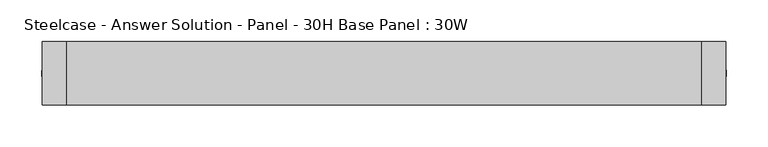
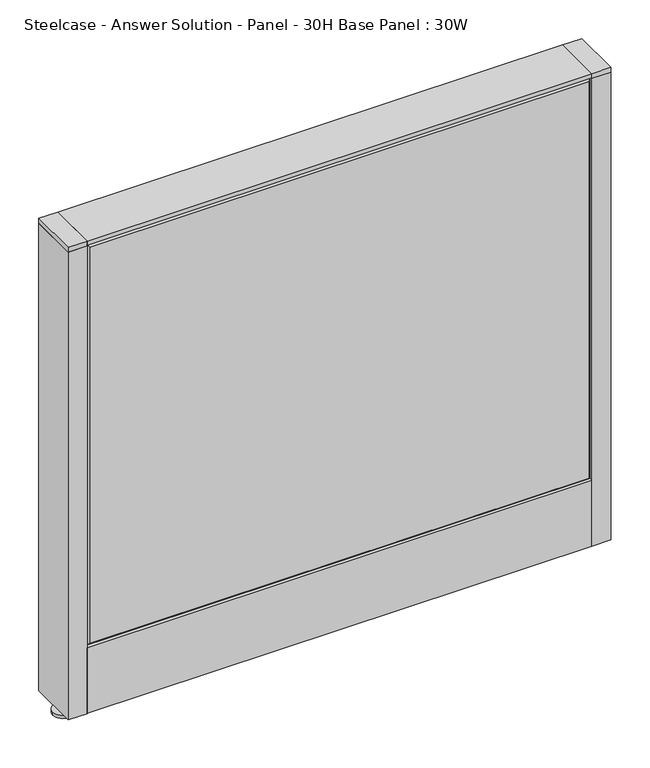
"""IFC4 building model written with IfcOpenShell, lengths in millimetres: furniture geometry, Steelcase - Answer Solution - Panel - 30H Base Panel : 30W."""

import ifcopenshell
import ifcopenshell.guid

model = None  # the IFC model being written
_history = None  # IfcOwnerHistory: only IFC2X3 demands one
_inside = {}  # id of a spatial element -> (the spatial element, [elements in it])
_under = {}  # id of a project, library or spatial element -> (it, [spatial elements below it])
_declared = {}  # id of a project -> (the project, [libraries it declares])
_typed = {}  # id of a type object -> (the type object, [elements of that type])
_made_of = {}  # id of a material, layer set ... -> (it, [elements and type objects made of it])


def new_model(schema):
    """Start an empty IFC model of exactly this schema.

    Asked for "IFC4X3", IfcOpenShell would pick the latest addendum, in which some entities
    have other attributes; the version numbers below select the first issue.
    IFC2X3 requires an IfcOwnerHistory on every rooted entity: one is made here for all.
    """
    global model, _history
    if schema == "IFC4X3":
        model = ifcopenshell.file(schema_version=(4, 3, 0, 0))
    else:
        model = ifcopenshell.file(schema=schema)
    _inside.clear()
    _under.clear()
    _declared.clear()
    _typed.clear()
    _made_of.clear()
    _history = None
    if model.schema == "IFC2X3":
        org = make("IfcOrganization", Name="unknown")
        user = make(
            "IfcPersonAndOrganization",
            ThePerson=make("IfcPerson", FamilyName="unknown"),
            TheOrganization=org,
        )
        app = make(
            "IfcApplication",
            ApplicationDeveloper=org,
            Version="unknown",
            ApplicationFullName="unknown",
            ApplicationIdentifier="unknown",
        )
        _history = make(
            "IfcOwnerHistory",
            OwningUser=user,
            OwningApplication=app,
            ChangeAction="ADDED",
            CreationDate=0,
        )
    return model


def make(cls, **values):
    """One entity of the class cls with the attributes given. An attribute that is None is left unset."""
    return model.create_entity(
        cls, **{name: value for name, value in values.items() if value is not None}
    )


def rooted(cls, **values):
    """An entity with a GlobalId (a new one), such as an element, a storey or a relation."""
    return make(cls, GlobalId=ifcopenshell.guid.new(), OwnerHistory=_history, **values)


def si_unit(unit_type, name, prefix=None):
    """IfcSIUnit, for example si_unit("LENGTHUNIT", "METRE", prefix="MILLI")."""
    return make("IfcSIUnit", UnitType=unit_type, Prefix=prefix, Name=name)


def assignment(units):
    """IfcUnitAssignment: the units of a project."""
    return None if units is None else make("IfcUnitAssignment", Units=units)


def point(xyz):
    """IfcCartesianPoint."""
    return None if xyz is None else make("IfcCartesianPoint", Coordinates=xyz)


def direction(xyz):
    """IfcDirection."""
    return None if xyz is None else make("IfcDirection", DirectionRatios=xyz)


def frame(location, z_axis=None, x_axis=None):
    """IfcAxis2Placement3D, a coordinate frame: its origin and axes. An axis left out is left unset."""
    return make(
        "IfcAxis2Placement3D",
        Location=point(location),
        Axis=direction(z_axis),
        RefDirection=direction(x_axis),
    )


def frame_2d(location, x_axis=None):
    """IfcAxis2Placement2D, a coordinate frame in the plane: its origin and x axis."""
    return make(
        "IfcAxis2Placement2D", Location=point(location), RefDirection=direction(x_axis)
    )


def origin():
    """The frame at (0, 0, 0) with its axes left unset."""
    return frame((0.0, 0.0, 0.0))


def place(relative_to, where):
    """IfcLocalPlacement: puts the frame where relative to a parent placement (None: the world)."""
    return make(
        "IfcLocalPlacement", PlacementRelTo=relative_to, RelativePlacement=where
    )


def context(
    kind, dimensions, precision=None, world=None, true_north=None, identifier=None
):
    """IfcGeometricRepresentationContext, for example the 3D "Model" context."""
    return make(
        "IfcGeometricRepresentationContext",
        ContextIdentifier=identifier,
        ContextType=kind,
        CoordinateSpaceDimension=dimensions,
        Precision=precision,
        WorldCoordinateSystem=world,
        TrueNorth=true_north,
    )


def project(units=None, contexts=None):
    """IfcProject with its units and contexts."""
    return rooted(
        "IfcProject",
        Name="project",
        RepresentationContexts=contexts,
        UnitsInContext=assignment(units),
    )


def spatial(cls, under=None, at=None, **own):
    """A site, building, storey or space (cls), placed at a placement, below another one or the project."""
    s = rooted(cls, ObjectPlacement=at, **own)
    if under is not None:
        _under.setdefault(under.id(), (under, []))[1].append(s)
    return s


def polyline(points):
    """IfcPolyline through the points."""
    return make("IfcPolyline", Points=[point(p) for p in points])


def circle_curve(where, radius):
    """IfcCircle in the frame where."""
    return make("IfcCircle", Position=where, Radius=radius)


def trimmed(basis, trim1, trim2, sense, master):
    """IfcTrimmedCurve: the piece of a basis curve between two trims."""
    return make(
        "IfcTrimmedCurve",
        BasisCurve=basis,
        Trim1=trim1,
        Trim2=trim2,
        SenseAgreement=sense,
        MasterRepresentation=master,
    )


def segment(curve, same_sense, transition):
    """IfcCompositeCurveSegment."""
    return make(
        "IfcCompositeCurveSegment",
        Transition=transition,
        SameSense=same_sense,
        ParentCurve=curve,
    )


def composite_curve(segments, self_intersect=None):
    """IfcCompositeCurve: segments joined end to end."""
    return make("IfcCompositeCurve", Segments=segments, SelfIntersect=self_intersect)


def outline(outer, holes=None, kind="AREA"):
    """IfcArbitraryClosedProfileDef: a profile drawn as a closed curve; with holes, ...WithVoids."""
    if holes is None:
        return make("IfcArbitraryClosedProfileDef", ProfileType=kind, OuterCurve=outer)
    return make(
        "IfcArbitraryProfileDefWithVoids",
        ProfileType=kind,
        OuterCurve=outer,
        InnerCurves=holes,
    )


def extrude(swept, where, along, depth):
    """IfcExtrudedAreaSolid: the profile swept, set in the frame where, extruded along a direction by depth."""
    return make(
        "IfcExtrudedAreaSolid",
        SweptArea=swept,
        Position=where,
        ExtrudedDirection=direction(along),
        Depth=depth,
    )


def faces_of(points, faces, orient=None, outer=None):
    """IfcFace entities. A face is a list of loops; a loop is a list of indices into points, from 0.

    orient and outer hold one flag for each loop. By default every Orientation is true, the
    first loop of a face is its IfcFaceOuterBound and the others are IfcFaceBound.
    """
    made = []
    for i, loops in enumerate(faces):
        bounds = []
        for j, loop in enumerate(loops):
            is_outer = j == 0 if outer is None else outer[i][j]
            bounds.append(
                make(
                    "IfcFaceOuterBound" if is_outer else "IfcFaceBound",
                    Bound=make("IfcPolyLoop", Polygon=[points[k] for k in loop]),
                    Orientation=True if orient is None else orient[i][j],
                )
            )
        made.append(make("IfcFace", Bounds=bounds))
    return made


def faceted_brep(points, faces, orient=None, outer=None, voids=None):
    """IfcFacetedBrep: a solid bounded by flat faces; with voids (closed shells), ...WithVoids."""
    shared = [point(p) for p in points]
    hull = make("IfcClosedShell", CfsFaces=faces_of(shared, faces, orient, outer))
    if voids is None:
        return make("IfcFacetedBrep", Outer=hull)
    return make(
        "IfcFacetedBrepWithVoids",
        Outer=hull,
        Voids=[
            make(cls, CfsFaces=faces_of(shared, fs, o, b)) for cls, fs, o, b in voids
        ],
    )


def shape(context_of_items, identifier, shape_type, items):
    """IfcShapeRepresentation: the items that make up one representation, for example the "Body"."""
    return make(
        "IfcShapeRepresentation",
        ContextOfItems=context_of_items,
        RepresentationIdentifier=identifier,
        RepresentationType=shape_type,
        Items=items,
    )


def source(mapping_origin, context_of_items, identifier, shape_type, items):
    """IfcRepresentationMap: a shape defined once, which mapped items show again and again."""
    return make(
        "IfcRepresentationMap",
        MappingOrigin=mapping_origin,
        MappedRepresentation=shape(context_of_items, identifier, shape_type, items),
    )


def transform(
    local_origin,
    x_axis=None,
    y_axis=None,
    z_axis=None,
    scale=None,
    scale2=None,
    scale3=None,
    uniform=True,
):
    """IfcCartesianTransformationOperator3D, or its non-uniform kind. x_axis, y_axis, z_axis: its Axis1, 2, 3."""
    if uniform:
        return make(
            "IfcCartesianTransformationOperator3D",
            Axis1=direction(x_axis),
            Axis2=direction(y_axis),
            LocalOrigin=point(local_origin),
            Scale=scale,
            Axis3=direction(z_axis),
        )
    return make(
        "IfcCartesianTransformationOperator3DnonUniform",
        Axis1=direction(x_axis),
        Axis2=direction(y_axis),
        LocalOrigin=point(local_origin),
        Scale=scale,
        Axis3=direction(z_axis),
        Scale2=scale2,
        Scale3=scale3,
    )


def mapped(mapping_source, mapping_target):
    """IfcMappedItem: shows the shape of a source again, moved by a transform."""
    return make(
        "IfcMappedItem", MappingSource=mapping_source, MappingTarget=mapping_target
    )


def made_of(thing, what):
    """Note that an element or type object is made of a material, layer set ...; save() writes the relation."""
    if what is not None:
        _made_of.setdefault(what.id(), (what, []))[1].append(thing)
    return thing


def element(
    cls,
    number,
    at=None,
    inside=None,
    cuts=None,
    type_object=None,
    material=None,
    context=None,
    identifier="Body",
    shape_type=None,
    held_by="IfcProductDefinitionShape",
    body=None,
    shapes=None,
    **own,
):
    """One element of the class cls, such as IfcWall. Its Tag is "e" and its number.

    at: its placement. inside: the storey or other place that contains it. cuts: it is an
    opening in that element (IfcRelVoidsElement). A single representation is given by context,
    identifier, shape_type and body (its items); several are given by shapes. held_by: the class
    of the entity that holds the representations. save() writes the other relations.
    """
    e = rooted(cls, Tag="e%d" % number, ObjectPlacement=at, **own)
    if body is not None:
        shapes = [shape(context, identifier, shape_type, body)]
    if shapes is not None:
        e.Representation = make(held_by, Representations=shapes)
    if inside is not None:
        _inside.setdefault(inside.id(), (inside, []))[1].append(e)
    if cuts is not None:
        rooted(
            "IfcRelVoidsElement", RelatingBuildingElement=cuts, RelatedOpeningElement=e
        )
    if type_object is not None:
        _typed.setdefault(type_object.id(), (type_object, []))[1].append(e)
    return made_of(e, material)


def aggregate(whole, parts):
    """IfcRelAggregates: a whole, such as a stair, and the parts it consists of."""
    return rooted("IfcRelAggregates", RelatingObject=whole, RelatedObjects=parts)


def save(model, path):
    """Write the relations noted so far, then the file.

    IfcRelAggregates (storeys below a building ...), IfcRelContainedInSpatialStructure (elements
    in a storey), IfcRelDefinesByType, IfcRelAssociatesMaterial and IfcRelDeclares: one each for
    every whole, place, type object, material and project.
    """
    for whole, parts in _under.values():
        aggregate(whole, parts)
    for where, things in _inside.values():
        rooted(
            "IfcRelContainedInSpatialStructure",
            RelatedElements=things,
            RelatingStructure=where,
        )
    for kind, things in _typed.values():
        rooted("IfcRelDefinesByType", RelatedObjects=things, RelatingType=kind)
    for what, things in _made_of.values():
        rooted("IfcRelAssociatesMaterial", RelatedObjects=things, RelatingMaterial=what)
    for by, libraries in _declared.values():
        rooted("IfcRelDeclares", RelatingContext=by, RelatedDefinitions=libraries)
    model.write(path)


def steelcase_answer_solution_panel_30h_base_panel_30w_58b5111d(model_context):
    return source(origin(), model_context, "Body", "SolidModel", [
        extrude(outline(composite_curve([segment(trimmed(circle_curve(frame_2d((395.224, 0.0320214)), 5.08), [point((400.304, 0.0320214))], [point((390.144, 0.0320214))], False, "CARTESIAN"), True, "CONTINUOUS"), segment(trimmed(circle_curve(frame_2d((395.224, 0.0320214)), 5.08), [point((390.144, 0.0320214))], [point((400.304, 0.0320214))], False, "CARTESIAN"), True, "CONTINUOUS")], self_intersect=False)), frame((0.0, 0.0, 5.0799671), z_axis=(0.0, 0.0, 1.0), x_axis=(1.0, 0.0, 0.0)), (0.0, 0.0, 1.0), 10.414),
        extrude(outline(composite_curve([segment(trimmed(circle_curve(frame_2d((395.224, 0.0320214)), 15.24), [point((410.464, 0.0320214))], [point((379.984, 0.0320214))], False, "CARTESIAN"), True, "CONTINUOUS"), segment(trimmed(circle_curve(frame_2d((395.224, 0.0320214)), 15.24), [point((379.984, 0.0320214))], [point((410.464, 0.0320214))], False, "CARTESIAN"), True, "CONTINUOUS")], self_intersect=False)), frame((0.0, 0.0, -3.29e-05), z_axis=(0.0, 0.0, 1.0), x_axis=(1.0, 0.0, 0.0)), (0.0, 0.0, 1.0), 5.08),
        extrude(outline(polyline([(409.575, 38.1320408), (409.575, -38.0679592), (381.0, -38.0679592), (381.0, 38.1320408), (409.575, 38.1320408)])), frame((0.0, 0.0, 761.0348), z_axis=(0.0, 0.0, 1.0), x_axis=(1.0, 0.0, 0.0)), (0.0, 0.0, 1.0), 7.3151671),
        extrude(outline(polyline([(409.575, 38.1320408), (409.575, -38.0679592), (381.0, -38.0679592), (381.0, 38.1320408), (409.575, 38.1320408)])), frame((0.0, 0.0, 15.4939671), z_axis=(0.0, 0.0, 1.0), x_axis=(1.0, 0.0, 0.0)), (0.0, 0.0, 1.0), 745.5408329),
        extrude(outline(composite_curve([segment(trimmed(circle_curve(frame_2d((-395.224, -0.0320214)), 5.08), [point((-400.304, -0.0320214))], [point((-390.144, -0.0320214))], False, "CARTESIAN"), True, "CONTINUOUS"), segment(trimmed(circle_curve(frame_2d((-395.224, -0.0320214)), 5.08), [point((-390.144, -0.0320214))], [point((-400.304, -0.0320214))], False, "CARTESIAN"), True, "CONTINUOUS")], self_intersect=False)), frame((0.0, 0.0, 5.0799671), z_axis=(0.0, 0.0, 1.0), x_axis=(1.0, 0.0, 0.0)), (0.0, 0.0, 1.0), 10.414),
        extrude(outline(composite_curve([segment(trimmed(circle_curve(frame_2d((-395.224, -0.0320214)), 15.24), [point((-410.464, -0.0320214))], [point((-379.984, -0.0320214))], False, "CARTESIAN"), True, "CONTINUOUS"), segment(trimmed(circle_curve(frame_2d((-395.224, -0.0320214)), 15.24), [point((-379.984, -0.0320214))], [point((-410.464, -0.0320214))], False, "CARTESIAN"), True, "CONTINUOUS")], self_intersect=False)), frame((0.0, 0.0, -3.29e-05), z_axis=(0.0, 0.0, 1.0), x_axis=(1.0, 0.0, 0.0)), (0.0, 0.0, 1.0), 5.08),
        extrude(outline(polyline([(-409.575, -38.1320408), (-409.575, 38.0679592), (-381.0, 38.0679592), (-381.0, -38.1320408), (-409.575, -38.1320408)])), frame((0.0, 0.0, 761.0348), z_axis=(0.0, 0.0, 1.0), x_axis=(1.0, 0.0, 0.0)), (0.0, 0.0, 1.0), 7.3151671),
        extrude(outline(polyline([(-409.575, -38.1320408), (-409.575, 38.0679592), (-381.0, 38.0679592), (-381.0, -38.1320408), (-409.575, -38.1320408)])), frame((0.0, 0.0, 15.4939671), z_axis=(0.0, 0.0, 1.0), x_axis=(1.0, 0.0, 0.0)), (0.0, 0.0, 1.0), 745.5408329),
        faceted_brep([(376.174, 38.1635011, 757.174), (376.174, 38.1635011, 125.476), (-376.174, 38.1635011, 125.476), (-376.174, 38.1635011, 757.174), (381.0, 33.3375011, 762.0), (-381.0, 33.3375011, 762.0), (-381.0, 33.3375011, 120.65), (381.0, 33.3375011, 120.65)], [[[0, 1, 2, 3]], [[4, 5, 6, 7]], [[4, 0, 3, 5]], [[5, 3, 2, 6]], [[6, 2, 1, 7]], [[7, 1, 0, 4]]]),
        faceted_brep([(376.174, -38.1635011, 757.174), (-376.174, -38.1635011, 757.174), (-376.174, -38.1635011, 125.476), (376.174, -38.1635011, 125.476), (381.0, -33.3375011, 762.0), (381.0, -33.3375011, 120.65), (-381.0, -33.3375011, 120.65), (-381.0, -33.3375011, 762.0)], [[[0, 1, 2, 3]], [[4, 5, 6, 7]], [[4, 7, 1, 0]], [[7, 6, 2, 1]], [[6, 5, 3, 2]], [[5, 4, 0, 3]]]),
        extrude(outline(polyline([(381.0, 38.1000194), (381.0, -38.1000194), (-381.0, -38.1000194), (-381.0, 38.1000194), (381.0, 38.1000194)])), frame((0.0, 0.0, 762.0), z_axis=(0.0, 0.0, 1.0), x_axis=(1.0, 0.0, 0.0)), (0.0, 0.0, 1.0), 6.35),
        extrude(outline(polyline([(37.3075215, 119.8575157), (25.4000011, 119.8575157), (25.4000011, 120.65), (38.1000194, 120.65), (38.1000194, 15.494), (37.3075215, 15.494), (37.3075215, 119.8575157)])), frame((-381.0, 0.0, 0.0), z_axis=(1.0, 0.0, 0.0), x_axis=(0.0, 1.0, 0.0)), (0.0, 0.0, 1.0), 762.0),
        extrude(outline(polyline([(-37.3075215, 119.8575157), (-37.3075215, 15.494), (-38.1000194, 15.494), (-38.1000194, 120.65), (-25.4000011, 120.65), (-25.4000011, 119.8575157), (-37.3075215, 119.8575157)])), frame((-381.0, 0.0, 0.0), z_axis=(1.0, 0.0, 0.0), x_axis=(0.0, 1.0, 0.0)), (0.0, 0.0, 1.0), 762.0),
    ])


if __name__ == "__main__":
    model = new_model("IFC4")
    model_context = context("Model", 3, world=origin())
    ifc_project = project(units=[si_unit("LENGTHUNIT", "METRE", prefix="MILLI")], contexts=[model_context])
    site = spatial("IfcSite", under=ifc_project)
    building = spatial("IfcBuilding", under=site)
    placement = place(None, origin())
    steelcase_answer_solution_panel_30h_base_panel_30w_shape = steelcase_answer_solution_panel_30h_base_panel_30w_58b5111d(model_context)
    element("IfcFurniture", 1, ObjectType="Steelcase - Answer Solution - Panel - 30H Base Panel : 30W", at=placement, inside=building, context=model_context, shape_type="MappedRepresentation", body=[
        mapped(steelcase_answer_solution_panel_30h_base_panel_30w_shape, transform((0.0, 0.0, 0.0), x_axis=(1.0, 0.0, 0.0), y_axis=(0.0, 1.0, 0.0), z_axis=(0.0, 0.0, 1.0))),
    ])
    save(model, "model.ifc")
